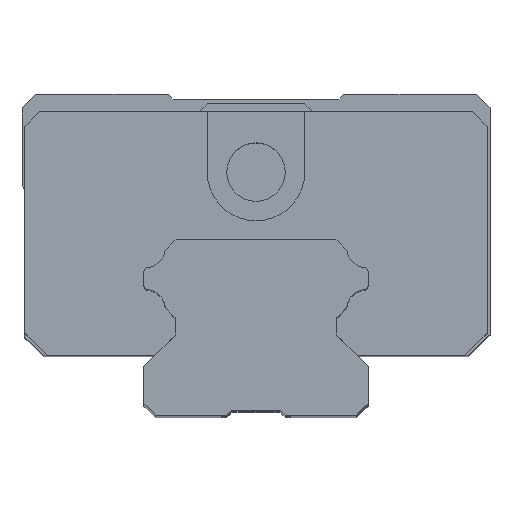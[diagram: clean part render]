
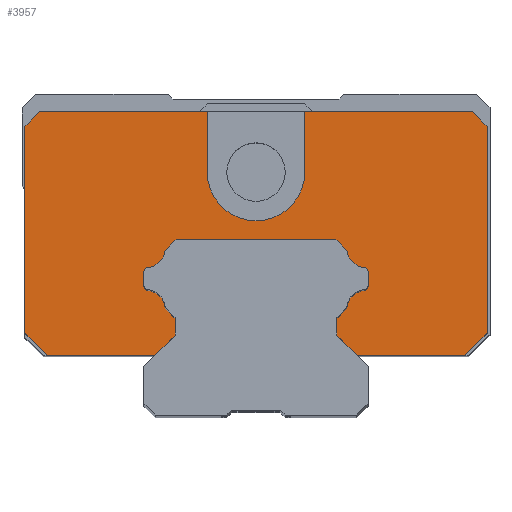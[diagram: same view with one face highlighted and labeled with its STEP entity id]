
A CAD part, top view. The second image highlights one B-rep face of the part: STEP entity #3957.
In plain terms, the highlighted planar face has unit normal (0, 0, 1).
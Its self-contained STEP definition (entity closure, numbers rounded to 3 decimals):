
#2027=DIRECTION('',(0.,-1.,0.));
#2028=VECTOR('',#2027,6.2);
#2029=CARTESIAN_POINT('',(-5.,13.2,12.3));
#2030=LINE('',#2029,#2028);
#2031=CARTESIAN_POINT('',(0.,7.,12.3));
#2032=DIRECTION('',(0.,0.,1.));
#2033=DIRECTION('',(-1.,0.,0.));
#2034=AXIS2_PLACEMENT_3D('',#2031,#2032,#2033);
#2036=DIRECTION('',(0.,-1.,0.));
#2037=VECTOR('',#2036,6.2);
#2038=CARTESIAN_POINT('',(5.,13.2,12.3));
#2039=LINE('',#2038,#2037);
#2040=DIRECTION('',(1.,0.,0.));
#2041=VECTOR('',#2040,17.2);
#2042=CARTESIAN_POINT('',(5.,13.2,12.3));
#2043=LINE('',#2042,#2041);
#2044=DIRECTION('',(0.707,-0.707,0.));
#2045=VECTOR('',#2044,2.121);
#2046=CARTESIAN_POINT('',(22.2,13.2,12.3));
#2047=LINE('',#2046,#2045);
#2048=DIRECTION('',(0.,-1.,0.));
#2049=VECTOR('',#2048,21.2);
#2050=CARTESIAN_POINT('',(23.7,11.7,12.3));
#2051=LINE('',#2050,#2049);
#2052=DIRECTION('',(-0.707,-0.707,0.));
#2053=VECTOR('',#2052,3.253);
#2054=CARTESIAN_POINT('',(23.7,-9.5,12.3));
#2055=LINE('',#2054,#2053);
#2056=DIRECTION('',(-1.,0.,0.));
#2057=VECTOR('',#2056,11.1);
#2058=CARTESIAN_POINT('',(21.4,-11.8,12.3));
#2059=LINE('',#2058,#2057);
#2060=DIRECTION('',(-0.707,0.707,0.));
#2061=VECTOR('',#2060,2.828);
#2062=CARTESIAN_POINT('',(10.3,-11.8,12.3));
#2063=LINE('',#2062,#2061);
#2064=DIRECTION('',(0.707,0.707,0.));
#2065=VECTOR('',#2064,1.421);
#2066=CARTESIAN_POINT('',(8.3,-8.,12.3));
#2067=LINE('',#2066,#2065);
#2068=CARTESIAN_POINT('',(11.3,-7.136,12.3));
#2069=DIRECTION('',(0.,0.,-1.));
#2070=DIRECTION('',(-0.998,0.07,0.));
#2071=AXIS2_PLACEMENT_3D('',#2068,#2069,#2070);
#2073=CARTESIAN_POINT('',(11.,-4.654,12.3));
#2074=DIRECTION('',(0.,0.,1.));
#2075=DIRECTION('',(0.12,-0.993,0.));
#2076=AXIS2_PLACEMENT_3D('',#2073,#2074,#2075);
#2078=CARTESIAN_POINT('',(11.,-3.365,12.3));
#2079=DIRECTION('',(0.,0.,1.));
#2080=DIRECTION('',(1.,0.,0.));
#2081=AXIS2_PLACEMENT_3D('',#2078,#2079,#2080);
#2083=CARTESIAN_POINT('',(11.3,-0.883,12.3));
#2084=DIRECTION('',(0.,0.,-1.));
#2085=DIRECTION('',(-0.12,-0.993,0.));
#2086=AXIS2_PLACEMENT_3D('',#2083,#2084,#2085);
#2088=DIRECTION('',(-0.707,0.707,0.));
#2089=VECTOR('',#2088,1.581);
#2090=CARTESIAN_POINT('',(9.314,-1.118,12.3));
#2091=LINE('',#2090,#2089);
#2092=DIRECTION('',(-0.707,-0.707,0.));
#2093=VECTOR('',#2092,1.581);
#2094=CARTESIAN_POINT('',(-8.196,0.,12.3));
#2095=LINE('',#2094,#2093);
#2096=CARTESIAN_POINT('',(-11.3,-0.883,12.3));
#2097=DIRECTION('',(0.,0.,-1.));
#2098=DIRECTION('',(0.993,-0.118,0.));
#2099=AXIS2_PLACEMENT_3D('',#2096,#2097,#2098);
#2101=CARTESIAN_POINT('',(-11.,-3.365,12.3));
#2102=DIRECTION('',(0.,0.,1.));
#2103=DIRECTION('',(-0.12,0.993,0.));
#2104=AXIS2_PLACEMENT_3D('',#2101,#2102,#2103);
#2106=CARTESIAN_POINT('',(-11.,-4.654,12.3));
#2107=DIRECTION('',(0.,0.,1.));
#2108=DIRECTION('',(-1.,0.,0.));
#2109=AXIS2_PLACEMENT_3D('',#2106,#2107,#2108);
#2111=CARTESIAN_POINT('',(-11.3,-7.136,12.3));
#2112=DIRECTION('',(0.,0.,-1.));
#2113=DIRECTION('',(0.12,0.993,0.));
#2114=AXIS2_PLACEMENT_3D('',#2111,#2112,#2113);
#2116=DIRECTION('',(0.707,-0.707,0.));
#2117=VECTOR('',#2116,1.421);
#2118=CARTESIAN_POINT('',(-9.305,-6.995,12.3));
#2119=LINE('',#2118,#2117);
#2120=DIRECTION('',(-0.707,-0.707,0.));
#2121=VECTOR('',#2120,2.828);
#2122=CARTESIAN_POINT('',(-8.3,-9.8,12.3));
#2123=LINE('',#2122,#2121);
#2124=DIRECTION('',(-1.,0.,0.));
#2125=VECTOR('',#2124,11.1);
#2126=CARTESIAN_POINT('',(-10.3,-11.8,12.3));
#2127=LINE('',#2126,#2125);
#2128=DIRECTION('',(-0.707,0.707,0.));
#2129=VECTOR('',#2128,3.253);
#2130=CARTESIAN_POINT('',(-21.4,-11.8,12.3));
#2131=LINE('',#2130,#2129);
#2132=DIRECTION('',(0.,1.,0.));
#2133=VECTOR('',#2132,21.2);
#2134=CARTESIAN_POINT('',(-23.7,-9.5,12.3));
#2135=LINE('',#2134,#2133);
#2136=DIRECTION('',(0.707,0.707,0.));
#2137=VECTOR('',#2136,2.121);
#2138=CARTESIAN_POINT('',(-23.7,11.7,12.3));
#2139=LINE('',#2138,#2137);
#2140=DIRECTION('',(1.,0.,0.));
#2141=VECTOR('',#2140,17.2);
#2142=CARTESIAN_POINT('',(-22.2,13.2,12.3));
#2143=LINE('',#2142,#2141);
#3119=DIRECTION('',(0.,-1.,0.));
#3120=VECTOR('',#3119,1.8);
#3121=CARTESIAN_POINT('',(8.3,-8.,12.3));
#3122=LINE('',#3121,#3120);
#3155=DIRECTION('',(0.,-1.,0.));
#3156=VECTOR('',#3155,1.289);
#3157=CARTESIAN_POINT('',(11.5,-3.365,12.3));
#3158=LINE('',#3157,#3156);
#3195=DIRECTION('',(1.,0.,0.));
#3196=VECTOR('',#3195,16.392);
#3197=CARTESIAN_POINT('',(-8.196,0.,12.3));
#3198=LINE('',#3197,#3196);
#3227=DIRECTION('',(0.,1.,0.));
#3228=VECTOR('',#3227,1.289);
#3229=CARTESIAN_POINT('',(-11.5,-4.654,12.3));
#3230=LINE('',#3229,#3228);
#3267=DIRECTION('',(0.,1.,0.));
#3268=VECTOR('',#3267,1.8);
#3269=CARTESIAN_POINT('',(-8.3,-9.8,12.3));
#3270=LINE('',#3269,#3268);
#3471=CARTESIAN_POINT('',(-21.4,-11.8,12.3));
#3472=VERTEX_POINT('',#3471);
#3473=CARTESIAN_POINT('',(-10.3,-11.8,12.3));
#3474=VERTEX_POINT('',#3473);
#3479=CARTESIAN_POINT('',(-23.7,-9.5,12.3));
#3480=VERTEX_POINT('',#3479);
#3481=CARTESIAN_POINT('',(23.7,-9.5,12.3));
#3482=CARTESIAN_POINT('',(21.4,-11.8,12.3));
#3483=VERTEX_POINT('',#3481);
#3484=VERTEX_POINT('',#3482);
#3485=CARTESIAN_POINT('',(10.3,-11.8,12.3));
#3486=VERTEX_POINT('',#3485);
#3487=CARTESIAN_POINT('',(8.3,-9.8,12.3));
#3488=VERTEX_POINT('',#3487);
#3489=CARTESIAN_POINT('',(8.3,-8.,12.3));
#3490=VERTEX_POINT('',#3489);
#3491=CARTESIAN_POINT('',(9.305,-6.995,12.3));
#3492=VERTEX_POINT('',#3491);
#3493=CARTESIAN_POINT('',(11.06,-5.15,12.3));
#3494=VERTEX_POINT('',#3493);
#3495=CARTESIAN_POINT('',(11.5,-4.654,12.3));
#3496=VERTEX_POINT('',#3495);
#3497=CARTESIAN_POINT('',(11.5,-3.365,12.3));
#3498=VERTEX_POINT('',#3497);
#3499=CARTESIAN_POINT('',(11.06,-2.868,12.3));
#3500=VERTEX_POINT('',#3499);
#3501=CARTESIAN_POINT('',(9.314,-1.118,12.3));
#3502=VERTEX_POINT('',#3501);
#3503=CARTESIAN_POINT('',(8.196,0.,12.3));
#3504=VERTEX_POINT('',#3503);
#3505=CARTESIAN_POINT('',(-8.196,0.,12.3));
#3506=VERTEX_POINT('',#3505);
#3507=CARTESIAN_POINT('',(-9.314,-1.118,12.3));
#3508=VERTEX_POINT('',#3507);
#3509=CARTESIAN_POINT('',(-11.06,-2.868,12.3));
#3510=VERTEX_POINT('',#3509);
#3511=CARTESIAN_POINT('',(-11.5,-3.365,12.3));
#3512=VERTEX_POINT('',#3511);
#3513=CARTESIAN_POINT('',(-11.5,-4.654,12.3));
#3514=VERTEX_POINT('',#3513);
#3515=CARTESIAN_POINT('',(-11.06,-5.15,12.3));
#3516=VERTEX_POINT('',#3515);
#3517=CARTESIAN_POINT('',(-9.305,-6.995,12.3));
#3518=VERTEX_POINT('',#3517);
#3519=CARTESIAN_POINT('',(-8.3,-8.,12.3));
#3520=VERTEX_POINT('',#3519);
#3521=CARTESIAN_POINT('',(-8.3,-9.8,12.3));
#3522=VERTEX_POINT('',#3521);
#3523=CARTESIAN_POINT('',(-23.7,11.7,12.3));
#3524=VERTEX_POINT('',#3523);
#3525=CARTESIAN_POINT('',(-22.2,13.2,12.3));
#3526=VERTEX_POINT('',#3525);
#3527=CARTESIAN_POINT('',(22.2,13.2,12.3));
#3528=CARTESIAN_POINT('',(23.7,11.7,12.3));
#3529=VERTEX_POINT('',#3527);
#3530=VERTEX_POINT('',#3528);
#3711=CARTESIAN_POINT('',(-5.,13.2,12.3));
#3712=CARTESIAN_POINT('',(-5.,7.,12.3));
#3713=VERTEX_POINT('',#3711);
#3714=VERTEX_POINT('',#3712);
#3715=CARTESIAN_POINT('',(5.,7.,12.3));
#3716=VERTEX_POINT('',#3715);
#3717=CARTESIAN_POINT('',(5.,13.2,12.3));
#3718=VERTEX_POINT('',#3717);
#3888=CARTESIAN_POINT('',(-36.5,15.,12.3));
#3889=DIRECTION('',(0.,0.,1.));
#3890=DIRECTION('',(1.,0.,0.));
#3891=AXIS2_PLACEMENT_3D('',#3888,#3889,#3890);
#3892=PLANE('',#3891);
#3894=ORIENTED_EDGE('',*,*,#3893,.T.);
#3896=ORIENTED_EDGE('',*,*,#3895,.T.);
#3898=ORIENTED_EDGE('',*,*,#3897,.F.);
#3900=ORIENTED_EDGE('',*,*,#3899,.T.);
#3902=ORIENTED_EDGE('',*,*,#3901,.T.);
#3904=ORIENTED_EDGE('',*,*,#3903,.T.);
#3906=ORIENTED_EDGE('',*,*,#3905,.T.);
#3908=ORIENTED_EDGE('',*,*,#3907,.T.);
#3910=ORIENTED_EDGE('',*,*,#3909,.T.);
#3912=ORIENTED_EDGE('',*,*,#3911,.F.);
#3914=ORIENTED_EDGE('',*,*,#3913,.T.);
#3916=ORIENTED_EDGE('',*,*,#3915,.T.);
#3918=ORIENTED_EDGE('',*,*,#3917,.T.);
#3920=ORIENTED_EDGE('',*,*,#3919,.F.);
#3922=ORIENTED_EDGE('',*,*,#3921,.T.);
#3924=ORIENTED_EDGE('',*,*,#3923,.T.);
#3926=ORIENTED_EDGE('',*,*,#3925,.T.);
#3928=ORIENTED_EDGE('',*,*,#3927,.F.);
#3930=ORIENTED_EDGE('',*,*,#3929,.T.);
#3932=ORIENTED_EDGE('',*,*,#3931,.T.);
#3934=ORIENTED_EDGE('',*,*,#3933,.T.);
#3936=ORIENTED_EDGE('',*,*,#3935,.F.);
#3938=ORIENTED_EDGE('',*,*,#3937,.T.);
#3940=ORIENTED_EDGE('',*,*,#3939,.T.);
#3942=ORIENTED_EDGE('',*,*,#3941,.T.);
#3944=ORIENTED_EDGE('',*,*,#3943,.F.);
#3946=ORIENTED_EDGE('',*,*,#3945,.T.);
#3947=ORIENTED_EDGE('',*,*,#3863,.T.);
#3948=ORIENTED_EDGE('',*,*,#3879,.T.);
#3950=ORIENTED_EDGE('',*,*,#3949,.T.);
#3952=ORIENTED_EDGE('',*,*,#3951,.T.);
#3954=ORIENTED_EDGE('',*,*,#3953,.T.);
#3955=EDGE_LOOP('',(#3894,#3896,#3898,#3900,#3902,#3904,#3906,#3908,#3910,#3912,
#3914,#3916,#3918,#3920,#3922,#3924,#3926,#3928,#3930,#3932,#3934,#3936,#3938,
#3940,#3942,#3944,#3946,#3947,#3948,#3950,#3952,#3954));
#3956=FACE_OUTER_BOUND('',#3955,.F.);
#3957=ADVANCED_FACE('',(#3956),#3892,.T.);
#2035=CIRCLE('',#2034,5.);
#2072=CIRCLE('',#2071,2.);
#2077=CIRCLE('',#2076,0.5);
#2082=CIRCLE('',#2081,0.5);
#2087=CIRCLE('',#2086,2.);
#2100=CIRCLE('',#2099,2.);
#2105=CIRCLE('',#2104,0.5);
#2110=CIRCLE('',#2109,0.5);
#2115=CIRCLE('',#2114,2.);
#3863=EDGE_CURVE('',#3474,#3472,#2127,.T.);
#3879=EDGE_CURVE('',#3472,#3480,#2131,.T.);
#3893=EDGE_CURVE('',#3713,#3714,#2030,.T.);
#3895=EDGE_CURVE('',#3714,#3716,#2035,.T.);
#3897=EDGE_CURVE('',#3718,#3716,#2039,.T.);
#3899=EDGE_CURVE('',#3718,#3529,#2043,.T.);
#3901=EDGE_CURVE('',#3529,#3530,#2047,.T.);
#3903=EDGE_CURVE('',#3530,#3483,#2051,.T.);
#3905=EDGE_CURVE('',#3483,#3484,#2055,.T.);
#3907=EDGE_CURVE('',#3484,#3486,#2059,.T.);
#3909=EDGE_CURVE('',#3486,#3488,#2063,.T.);
#3911=EDGE_CURVE('',#3490,#3488,#3122,.T.);
#3913=EDGE_CURVE('',#3490,#3492,#2067,.T.);
#3915=EDGE_CURVE('',#3492,#3494,#2072,.T.);
#3917=EDGE_CURVE('',#3494,#3496,#2077,.T.);
#3919=EDGE_CURVE('',#3498,#3496,#3158,.T.);
#3921=EDGE_CURVE('',#3498,#3500,#2082,.T.);
#3923=EDGE_CURVE('',#3500,#3502,#2087,.T.);
#3925=EDGE_CURVE('',#3502,#3504,#2091,.T.);
#3927=EDGE_CURVE('',#3506,#3504,#3198,.T.);
#3929=EDGE_CURVE('',#3506,#3508,#2095,.T.);
#3931=EDGE_CURVE('',#3508,#3510,#2100,.T.);
#3933=EDGE_CURVE('',#3510,#3512,#2105,.T.);
#3935=EDGE_CURVE('',#3514,#3512,#3230,.T.);
#3937=EDGE_CURVE('',#3514,#3516,#2110,.T.);
#3939=EDGE_CURVE('',#3516,#3518,#2115,.T.);
#3941=EDGE_CURVE('',#3518,#3520,#2119,.T.);
#3943=EDGE_CURVE('',#3522,#3520,#3270,.T.);
#3945=EDGE_CURVE('',#3522,#3474,#2123,.T.);
#3949=EDGE_CURVE('',#3480,#3524,#2135,.T.);
#3951=EDGE_CURVE('',#3524,#3526,#2139,.T.);
#3953=EDGE_CURVE('',#3526,#3713,#2143,.T.);
